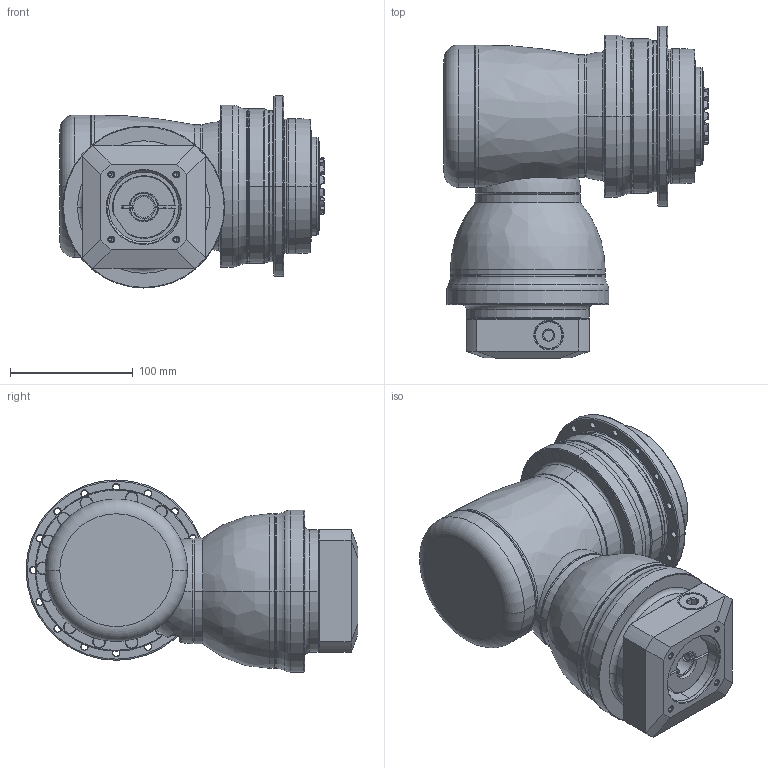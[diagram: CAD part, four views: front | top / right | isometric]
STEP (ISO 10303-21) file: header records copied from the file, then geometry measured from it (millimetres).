
FILE_DESCRIPTION((''),'2;1');
FILE_NAME('APCK110_2ST_19-P0409410201_ASM','2018-04-19T',('D00280'),(''),'PRO/ENGINEER BY PARAMETRIC TECHNOLOGY CORPORATION, 2008410','PRO/ENGINEER BY PARAMETRIC TECHNOLOGY CORPORATION, 2008410','');
FILE_SCHEMA(('CONFIG_CONTROL_DESIGN'));
Length unit declared in the file: millimetre
Products named in the file (13): P1008400002; P1802410011; P0278401003; P03594C0103; P1211400001; P1315400001; P1007401001; P1318410001; P0409410201; P0503400008; P0129400001; 21711416017; APCK110_2ST_19-P0409410201_ASM
Assembly tree (12 placements, depth 2):
  APCK110_2ST_19-P0409410201_ASM
    P1008400002
    P1802410011
    P0278401003
    P03594C0103
    P1211400001
    P1315400001
    P1007401001
    P1318410001
    P0409410201
    P0503400008
    P0129400001
    21711416017
Bounding box: 215.2 x 270.5 x 156.5 mm (x, y, z)
Volume: 3578565.9 mm3; surface area: 412020.1 mm2
Topology: 13 solids, 23 shells, 776 faces, 1825 edges, 1128 vertices
Faces by surface type: cylinder 273, cone 202, plane 161, torus 108, bspline 30, sphere 2
Entity records: 25570 total; most frequent: CARTESIAN_POINT 7147, DIRECTION 4166, ORIENTED_EDGE 3580, AXIS2_PLACEMENT_3D 1829, EDGE_CURVE 1811, VERTEX_POINT 1128, CIRCLE 1048, EDGE_LOOP 889
